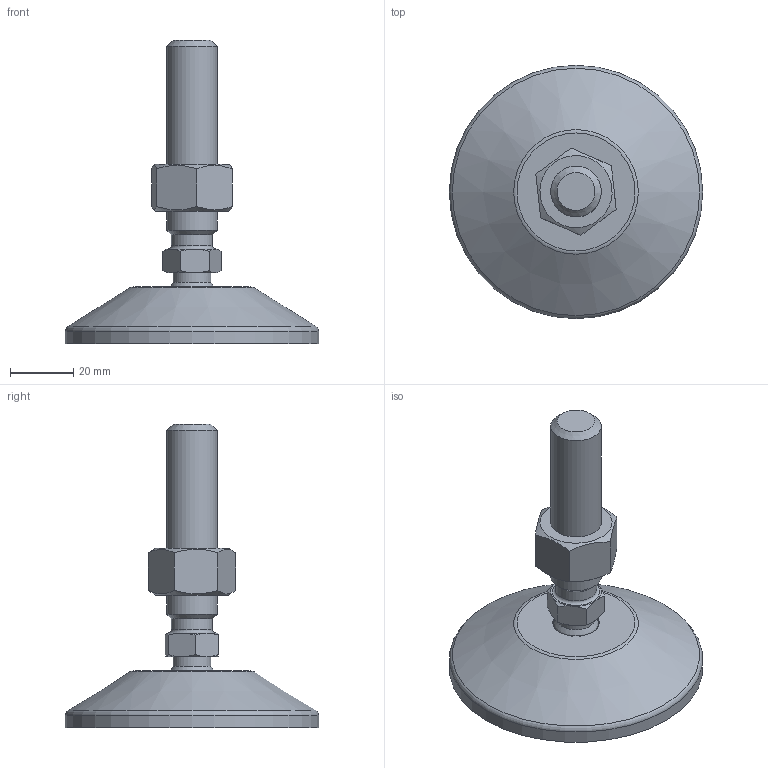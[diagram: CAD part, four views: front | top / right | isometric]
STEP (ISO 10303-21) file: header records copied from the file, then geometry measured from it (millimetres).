
FILE_DESCRIPTION(('STEP AP203'), '1');
FILE_NAME('栖闉罻', '', ('UNSPECIFIED'), ('UNSPECIFIED'), 'C3D Converter', 'C3D Toolkit', '');
FILE_SCHEMA(('CONFIG_CONTROL_DESIGN'));
Length unit declared in the file: millimetre
Products named in the file (4): A00020.116066; A00015.1080
Assembly tree (3 placements, depth 3):
  (unnamed)
    A00020.116066
      (unnamed)
    A00015.1080
Bounding box: 80 x 80 x 95.98 mm (x, y, z)
Volume: 57180.1 mm3; surface area: 23637.7 mm2
Topology: 3 solids, 3 shells, 189 faces, 478 edges, 316 vertices
Faces by surface type: plane 95, cylinder 58, cone 20, torus 14, sphere 2
Full cylindrical faces by diameter (mm): 4 x8, 12 x1, 13 x1, 13.835 x1, 14.3 x1, 15 x2, 15.5 x1, 16 x1, 69.3 x1, 80 x1
Entity records: 9576 total; most frequent: CARTESIAN_POINT 3398, DIRECTION 944, ORIENTED_EDGE 884, EDGE_CURVE 442, AXIS2_PLACEMENT_3D 378, VERTEX_POINT 315, EDGE_LOOP 247, FACE_BOUND 207
